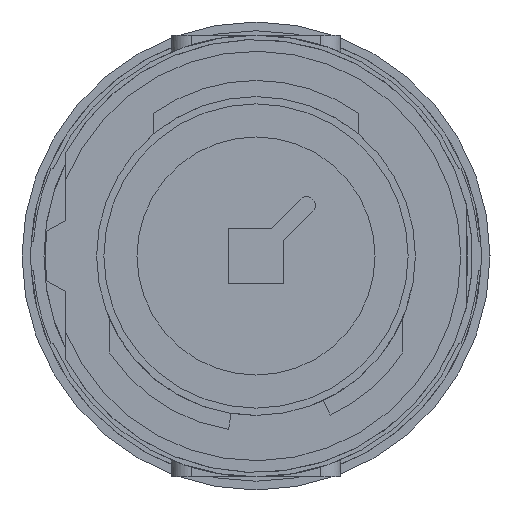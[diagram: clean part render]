
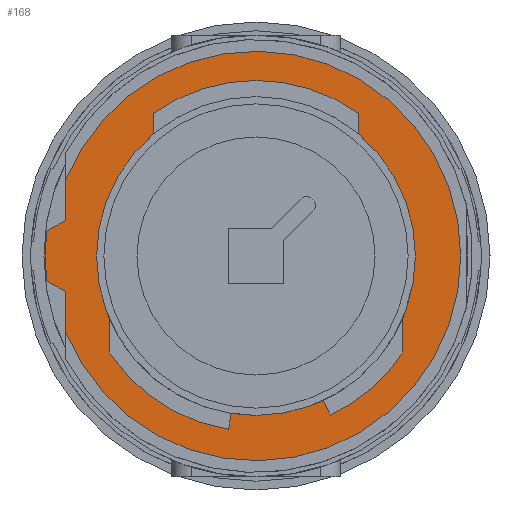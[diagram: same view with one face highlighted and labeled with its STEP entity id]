
A CAD part, left-side view. The second image highlights one B-rep face of the part: STEP entity #168.
In plain terms, the highlighted planar face has unit normal (-1, 0, 0).
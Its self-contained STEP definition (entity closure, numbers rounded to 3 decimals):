
#168 = ADVANCED_FACE( '', ( #446, #447 ), #448, .F. );
#446 = FACE_BOUND( '', #798, .T. );
#447 = FACE_OUTER_BOUND( '', #799, .T. );
#448 = PLANE( '', #800 );
#798 = EDGE_LOOP( '', ( #1648 ) );
#799 = EDGE_LOOP( '', ( #1649, #1650, #1651, #1652, #1653, #1654 ) );
#800 = AXIS2_PLACEMENT_3D( '', #1655, #1656, #1657 );
#1648 = ORIENTED_EDGE( '', *, *, #2245, .T. );
#1649 = ORIENTED_EDGE( '', *, *, #2451, .F. );
#1650 = ORIENTED_EDGE( '', *, *, #2452, .T. );
#1651 = ORIENTED_EDGE( '', *, *, #2453, .T. );
#1652 = ORIENTED_EDGE( '', *, *, #2454, .T. );
#1653 = ORIENTED_EDGE( '', *, *, #2455, .F. );
#1654 = ORIENTED_EDGE( '', *, *, #2430, .T. );
#1655 = CARTESIAN_POINT( '', ( -95.5, 5.45, 0. ) );
#1656 = DIRECTION( '', ( 1., 0., 0. ) );
#1657 = DIRECTION( '', ( 0., 0., -1. ) );
#2245 = EDGE_CURVE( '', #2689, #2689, #2690, .T. );
#2430 = EDGE_CURVE( '', #3005, #3006, #3007, .T. );
#2451 = EDGE_CURVE( '', #3042, #3006, #3043, .T. );
#2452 = EDGE_CURVE( '', #3042, #3044, #3045, .T. );
#2453 = EDGE_CURVE( '', #3044, #3046, #3047, .T. );
#2454 = EDGE_CURVE( '', #3046, #3048, #3049, .T. );
#2455 = EDGE_CURVE( '', #3005, #3048, #3050, .T. );
#2689 = VERTEX_POINT( '', #3431 );
#2690 = CIRCLE( '', #3432, 5.45 );
#3005 = VERTEX_POINT( '', #3880 );
#3006 = VERTEX_POINT( '', #3881 );
#3007 = CIRCLE( '', #3882, 7. );
#3042 = VERTEX_POINT( '', #3931 );
#3043 = LINE( '', #3932, #3933 );
#3044 = VERTEX_POINT( '', #3934 );
#3045 = LINE( '', #3935, #3936 );
#3046 = VERTEX_POINT( '', #3937 );
#3047 = CIRCLE( '', #3938, 7.2 );
#3048 = VERTEX_POINT( '', #3939 );
#3049 = LINE( '', #3940, #3941 );
#3050 = LINE( '', #3942, #3943 );
#3431 = CARTESIAN_POINT( '', ( -95.5, 0., -5.45 ) );
#3432 = AXIS2_PLACEMENT_3D( '', #4287, #4288, #4289 );
#3880 = CARTESIAN_POINT( '', ( -95.5, 6.5, -2.598 ) );
#3881 = CARTESIAN_POINT( '', ( -95.5, 6.5, 2.598 ) );
#3882 = AXIS2_PLACEMENT_3D( '', #4598, #4599, #4600 );
#3931 = CARTESIAN_POINT( '', ( -95.5, 6.5, 1.21 ) );
#3932 = CARTESIAN_POINT( '', ( -95.5, 6.5, 0. ) );
#3933 = VECTOR( '', #4633, 1000. );
#3934 = CARTESIAN_POINT( '', ( -95.5, 7.15, 0.85 ) );
#3935 = CARTESIAN_POINT( '', ( -95.5, 6.5, 1.21 ) );
#3936 = VECTOR( '', #4634, 1000. );
#3937 = CARTESIAN_POINT( '', ( -95.5, 7.15, -0.85 ) );
#3938 = AXIS2_PLACEMENT_3D( '', #4635, #4636, #4637 );
#3939 = CARTESIAN_POINT( '', ( -95.5, 6.5, -1.21 ) );
#3940 = CARTESIAN_POINT( '', ( -95.5, 7.15, -0.85 ) );
#3941 = VECTOR( '', #4638, 1000. );
#3942 = CARTESIAN_POINT( '', ( -95.5, 6.5, 0. ) );
#3943 = VECTOR( '', #4639, 1000. );
#4287 = CARTESIAN_POINT( '', ( -95.5, 0., 0. ) );
#4288 = DIRECTION( '', ( 1., 0., 0. ) );
#4289 = DIRECTION( '', ( 0., 0., -1. ) );
#4598 = CARTESIAN_POINT( '', ( -95.5, 0., 0. ) );
#4599 = DIRECTION( '', ( -1., 0., 0. ) );
#4600 = DIRECTION( '', ( 0., 1., 0. ) );
#4633 = DIRECTION( '', ( 0., 0., 1. ) );
#4634 = DIRECTION( '', ( 0., 0.875, -0.485 ) );
#4635 = CARTESIAN_POINT( '', ( -95.5, 0., 0. ) );
#4636 = DIRECTION( '', ( -1., 0., 0. ) );
#4637 = DIRECTION( '', ( 0., 1., 0. ) );
#4638 = DIRECTION( '', ( 0., -0.875, -0.485 ) );
#4639 = DIRECTION( '', ( 0., 0., 1. ) );
